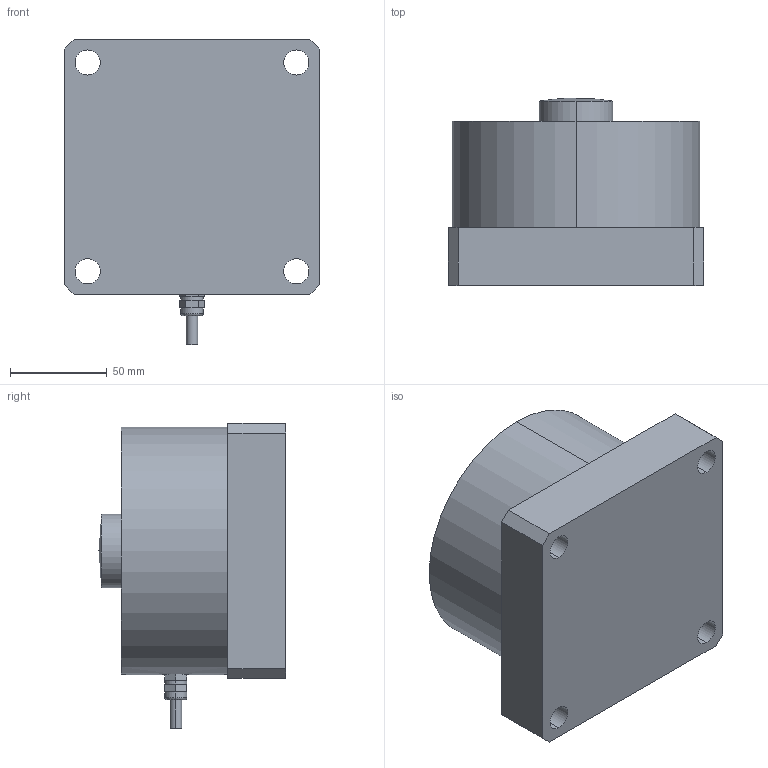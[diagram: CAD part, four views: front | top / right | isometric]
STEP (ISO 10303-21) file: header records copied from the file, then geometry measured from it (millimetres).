
FILE_DESCRIPTION (( 'STEP AP203' ), '1' );
FILE_NAME ('LCS-C2A 30t.STEP', '2023-09-26T02:53:21', ( 'SMOWO' ), ( '' ), 'SwSTEP 2.0', 'SolidWorks 2020', '' );
FILE_SCHEMA (( 'CONFIG_CONTROL_DESIGN' ));
Length unit declared in the file: millimetre
Products named in the file (1): LCS-C2A 30t
Bounding box: 132 x 97 x 158 mm (x, y, z)
Volume: 1212676.5 mm3; surface area: 91017.5 mm2
Topology: 1 solids, 2 shells, 78 faces, 187 edges, 117 vertices
Faces by surface type: plane 48, cylinder 26, torus 2, sphere 2
Entity records: 2540 total; most frequent: CARTESIAN_POINT 593, DIRECTION 413, ORIENTED_EDGE 368, EDGE_CURVE 184, AXIS2_PLACEMENT_3D 154, VERTEX_POINT 116, VECTOR 105, LINE 105
